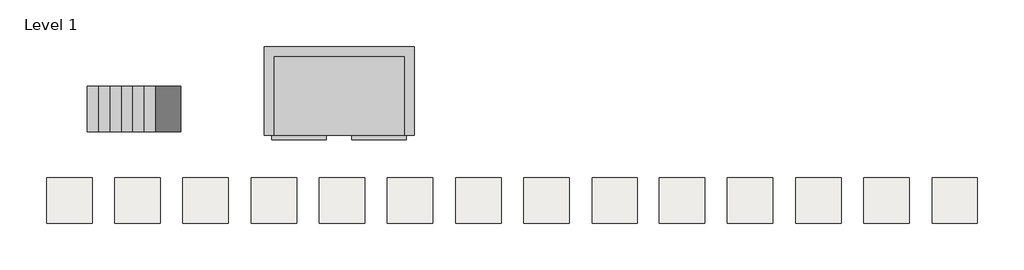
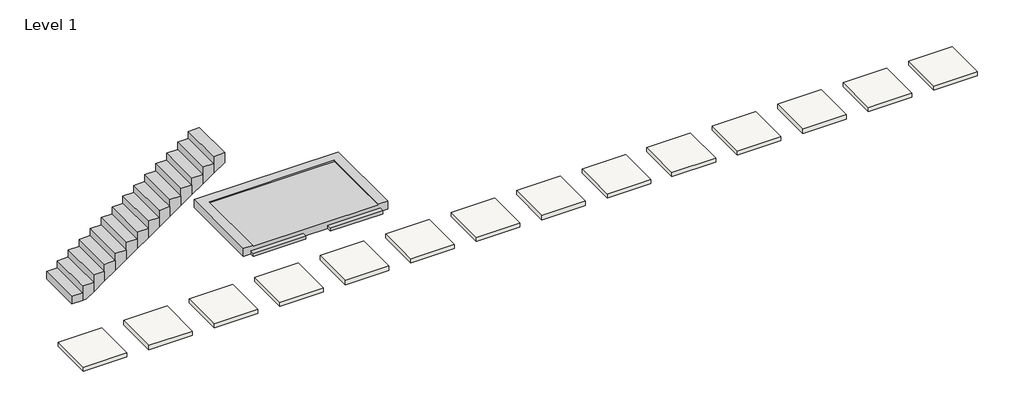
# One storey: 14 slabs, 1 proxy, 1 stair flight.
"""IFC4 building model written with IfcOpenShell, lengths in millimetres."""

from ifc_helpers import new_model, si_unit, frame, origin, place, context, project, spatial, polyline, outline, extrude, faceted_brep, transform, mapped, element, save
from components import proxy_300_24_isr_concrete_platform_double_platform_9cdc8692

model = new_model("IFC4")

# Units and contexts
model_context = context("Model", 3, world=origin())
ifc_project = project(units=[si_unit("LENGTHUNIT", "METRE", prefix="MILLI")], contexts=[model_context])

# Site, building, storey
site = spatial("IfcSite", under=ifc_project)
building = spatial("IfcBuilding", under=site)
storey = spatial("IfcBuildingStorey", under=building, Name="Level 1", Elevation=0.0)

# Proxy
placement = place(None, origin())
proxy_300_24_isr_concrete_platform_double_platform_shape = proxy_300_24_isr_concrete_platform_double_platform_9cdc8692(model_context)
element("IfcBuildingElementProxy", 1, Name="300_24_ISR_concrete_platform : double platform", ObjectType="300_24_ISR_concrete_platform : double platform", at=placement, inside=storey, context=model_context, shape_type="MappedRepresentation", body=[
    mapped(proxy_300_24_isr_concrete_platform_double_platform_shape, transform((-652.5441241, 2827.5413771, 0.0), x_axis=(1.0, 0.0, 0.0), y_axis=(0.0, 1.0, 0.0), z_axis=(0.0, 0.0, 1.0))),
])

# Slabs
element("IfcSlab", 2, ObjectType="Generic 100mm", at=placement, inside=storey, context=model_context, shape_type="SweptSolid", body=[
    extrude(outline(polyline([(-3088.5953778, 89.4387512), (-3088.5953778, -910.5612488), (-4088.5953778, -910.5612488), (-4088.5953778, 89.4387512), (-3088.5953778, 89.4387512)])), frame((0.0, 0.0, -100.0), z_axis=(0.0, 0.0, 1.0), x_axis=(1.0, 0.0, 0.0)), (0.0, 0.0, 1.0), 100.0),
])
element("IfcSlab", 3, ObjectType="Generic 100mm", at=placement, inside=storey, context=model_context, shape_type="SweptSolid", body=[
    extrude(outline(polyline([(-1588.5953778, 89.4387512), (-1588.5953778, -910.5612488), (-2588.5953778, -910.5612488), (-2588.5953778, 89.4387512), (-1588.5953778, 89.4387512)])), frame((0.0, 0.0, -100.0), z_axis=(0.0, 0.0, 1.0), x_axis=(1.0, 0.0, 0.0)), (0.0, 0.0, 1.0), 100.0),
])
element("IfcSlab", 4, ObjectType="Generic 100mm", at=placement, inside=storey, context=model_context, shape_type="SweptSolid", body=[
    extrude(outline(polyline([(-88.5953778, 89.4387512), (-88.5953778, -910.5612488), (-1088.5953778, -910.5612488), (-1088.5953778, 89.4387512), (-88.5953778, 89.4387512)])), frame((0.0, 0.0, -100.0), z_axis=(0.0, 0.0, 1.0), x_axis=(1.0, 0.0, 0.0)), (0.0, 0.0, 1.0), 100.0),
])
element("IfcSlab", 5, ObjectType="Generic 100mm", at=placement, inside=storey, context=model_context, shape_type="SweptSolid", body=[
    extrude(outline(polyline([(1411.4046222, 89.4387512), (1411.4046222, -910.5612488), (411.4046222, -910.5612488), (411.4046222, 89.4387512), (1411.4046222, 89.4387512)])), frame((0.0, 0.0, -100.0), z_axis=(0.0, 0.0, 1.0), x_axis=(1.0, 0.0, 0.0)), (0.0, 0.0, 1.0), 100.0),
])
element("IfcSlab", 6, ObjectType="Generic 100mm", at=placement, inside=storey, context=model_context, shape_type="SweptSolid", body=[
    extrude(outline(polyline([(2911.4046222, 89.4387512), (2911.4046222, -910.5612488), (1911.4046222, -910.5612488), (1911.4046222, 89.4387512), (2911.4046222, 89.4387512)])), frame((0.0, 0.0, -100.0), z_axis=(0.0, 0.0, 1.0), x_axis=(1.0, 0.0, 0.0)), (0.0, 0.0, 1.0), 100.0),
])
element("IfcSlab", 7, ObjectType="Generic 100mm", at=placement, inside=storey, context=model_context, shape_type="SweptSolid", body=[
    extrude(outline(polyline([(4411.4046222, 89.4387512), (4411.4046222, -910.5612488), (3411.4046222, -910.5612488), (3411.4046222, 89.4387512), (4411.4046222, 89.4387512)])), frame((0.0, 0.0, -100.0), z_axis=(0.0, 0.0, 1.0), x_axis=(1.0, 0.0, 0.0)), (0.0, 0.0, 1.0), 100.0),
])
element("IfcSlab", 8, ObjectType="Generic 100mm", at=placement, inside=storey, context=model_context, shape_type="SweptSolid", body=[
    extrude(outline(polyline([(5911.4046222, 89.4387512), (5911.4046222, -910.5612488), (4911.4046222, -910.5612488), (4911.4046222, 89.4387512), (5911.4046222, 89.4387512)])), frame((0.0, 0.0, -100.0), z_axis=(0.0, 0.0, 1.0), x_axis=(1.0, 0.0, 0.0)), (0.0, 0.0, 1.0), 100.0),
])
element("IfcSlab", 9, ObjectType="Generic 100mm", at=placement, inside=storey, context=model_context, shape_type="SweptSolid", body=[
    extrude(outline(polyline([(7411.4046222, 89.4387512), (7411.4046222, -910.5612488), (6411.4046222, -910.5612488), (6411.4046222, 89.4387512), (7411.4046222, 89.4387512)])), frame((0.0, 0.0, -100.0), z_axis=(0.0, 0.0, 1.0), x_axis=(1.0, 0.0, 0.0)), (0.0, 0.0, 1.0), 100.0),
])
element("IfcSlab", 10, ObjectType="Generic 100mm", at=placement, inside=storey, context=model_context, shape_type="SweptSolid", body=[
    extrude(outline(polyline([(-4588.5953778, 89.4387512), (-4588.5953778, -910.5612488), (-5588.5953778, -910.5612488), (-5588.5953778, 89.4387512), (-4588.5953778, 89.4387512)])), frame((0.0, 0.0, -100.0), z_axis=(0.0, 0.0, 1.0), x_axis=(1.0, 0.0, 0.0)), (0.0, 0.0, 1.0), 100.0),
])
element("IfcSlab", 11, ObjectType="Generic 100mm", at=placement, inside=storey, context=model_context, shape_type="SweptSolid", body=[
    extrude(outline(polyline([(8891.4046222, 89.4387512), (8891.4046222, -910.5612488), (7891.4046222, -910.5612488), (7891.4046222, 89.4387512), (8891.4046222, 89.4387512)])), frame((0.0, 0.0, -100.0), z_axis=(0.0, 0.0, 1.0), x_axis=(1.0, 0.0, 0.0)), (0.0, 0.0, 1.0), 100.0),
])
element("IfcSlab", 12, ObjectType="Generic 100mm", at=placement, inside=storey, context=model_context, shape_type="SweptSolid", body=[
    extrude(outline(polyline([(10391.4046222, 89.4387512), (10391.4046222, -910.5612488), (9391.4046222, -910.5612488), (9391.4046222, 89.4387512), (10391.4046222, 89.4387512)])), frame((0.0, 0.0, -100.0), z_axis=(0.0, 0.0, 1.0), x_axis=(1.0, 0.0, 0.0)), (0.0, 0.0, 1.0), 100.0),
])
element("IfcSlab", 13, ObjectType="Generic 100mm", at=placement, inside=storey, context=model_context, shape_type="SweptSolid", body=[
    extrude(outline(polyline([(11891.4046222, 89.4387512), (11891.4046222, -910.5612488), (10891.4046222, -910.5612488), (10891.4046222, 89.4387512), (11891.4046222, 89.4387512)])), frame((0.0, 0.0, -100.0), z_axis=(0.0, 0.0, 1.0), x_axis=(1.0, 0.0, 0.0)), (0.0, 0.0, 1.0), 100.0),
])
element("IfcSlab", 14, ObjectType="Generic 100mm", at=placement, inside=storey, context=model_context, shape_type="SweptSolid", body=[
    extrude(outline(polyline([(13391.4046222, 89.4387512), (13391.4046222, -910.5612488), (12391.4046222, -910.5612488), (12391.4046222, 89.4387512), (13391.4046222, 89.4387512)])), frame((0.0, 0.0, -100.0), z_axis=(0.0, 0.0, 1.0), x_axis=(1.0, 0.0, 0.0)), (0.0, 0.0, 1.0), 100.0),
])
element("IfcSlab", 15, ObjectType="Generic 100mm", at=placement, inside=storey, context=model_context, shape_type="SweptSolid", body=[
    extrude(outline(polyline([(14891.4046222, 89.4387512), (14891.4046222, -910.5612488), (13891.4046222, -910.5612488), (13891.4046222, 89.4387512), (14891.4046222, 89.4387512)])), frame((0.0, 0.0, -100.0), z_axis=(0.0, 0.0, 1.0), x_axis=(1.0, 0.0, 0.0)), (0.0, 0.0, 1.0), 100.0),
])

# Stair flight
element("IfcStairFlight", 16, ObjectType="190mm Depth", at=placement, inside=storey, context=model_context, shape_type="Brep", body=[
    faceted_brep([(-4438.5953778, 2107.5413771, 173.9130435), (-4688.5953778, 2107.5413771, 173.9130435), (-4688.5953778, 1107.5413771, 173.9130435), (-4438.5953778, 1107.5413771, 173.9130435), (-4438.5953778, 2107.5413771, 0.0), (-4688.5953778, 2107.5413771, 0.0), (-4688.5953778, 1107.5413771, 0.0), (-4438.5953778, 1107.5413771, 0.0), (-4188.5953778, 2107.5413771, 347.826087), (-4438.5953778, 2107.5413771, 347.826087), (-4438.5953778, 1107.5413771, 347.826087), (-4188.5953778, 1107.5413771, 347.826087), (-4188.5953778, 2107.5413771, 116.3742706), (-4355.8833918, 2107.5413771, 0.0), (-4355.8833918, 1107.5413771, 0.0), (-4188.5953778, 1107.5413771, 116.3742706), (-3938.5953778, 2107.5413771, 521.7391304), (-4188.5953778, 2107.5413771, 521.7391304), (-4188.5953778, 1107.5413771, 521.7391304), (-3938.5953778, 1107.5413771, 521.7391304), (-3938.5953778, 2107.5413771, 290.2873141), (-3938.5953778, 1107.5413771, 290.2873141), (-3688.5953778, 2107.5413771, 695.6521739), (-3938.5953778, 2107.5413771, 695.6521739), (-3938.5953778, 1107.5413771, 695.6521739), (-3688.5953778, 1107.5413771, 695.6521739), (-3688.5953778, 2107.5413771, 464.2003576), (-3688.5953778, 1107.5413771, 464.2003576), (-3438.5953778, 2107.5413771, 869.5652174), (-3688.5953778, 2107.5413771, 869.5652174), (-3688.5953778, 1107.5413771, 869.5652174), (-3438.5953778, 1107.5413771, 869.5652174), (-3438.5953778, 2107.5413771, 638.113401), (-3438.5953778, 1107.5413771, 638.113401), (-3188.5953778, 2107.5413771, 1043.4782609), (-3438.5953778, 2107.5413771, 1043.4782609), (-3438.5953778, 1107.5413771, 1043.4782609), (-3188.5953778, 1107.5413771, 1043.4782609), (-3188.5953778, 2107.5413771, 812.0264445), (-3188.5953778, 1107.5413771, 812.0264445), (-2938.5953778, 2107.5413771, 1217.3913043), (-3188.5953778, 2107.5413771, 1217.3913043), (-3188.5953778, 1107.5413771, 1217.3913043), (-2938.5953778, 1107.5413771, 1217.3913043), (-2938.5953778, 2107.5413771, 985.939488), (-2938.5953778, 1107.5413771, 985.939488), (-2688.5953778, 2107.5413771, 1391.3043478), (-2938.5953778, 2107.5413771, 1391.3043478), (-2938.5953778, 1107.5413771, 1391.3043478), (-2688.5953778, 1107.5413771, 1391.3043478), (-2688.5953778, 2107.5413771, 1159.8525315), (-2688.5953778, 1107.5413771, 1159.8525315), (-2438.5953778, 2107.5413771, 1565.2173913), (-2688.5953778, 2107.5413771, 1565.2173913), (-2688.5953778, 1107.5413771, 1565.2173913), (-2438.5953778, 1107.5413771, 1565.2173913), (-2438.5953778, 2107.5413771, 1333.765575), (-2438.5953778, 1107.5413771, 1333.765575), (-2188.5953778, 2107.5413771, 1739.1304348), (-2438.5953778, 2107.5413771, 1739.1304348), (-2438.5953778, 1107.5413771, 1739.1304348), (-2188.5953778, 1107.5413771, 1739.1304348), (-2188.5953778, 2107.5413771, 1507.6786184), (-2188.5953778, 1107.5413771, 1507.6786184), (-1938.5953778, 2107.5413771, 1913.0434783), (-2188.5953778, 2107.5413771, 1913.0434783), (-2188.5953778, 1107.5413771, 1913.0434783), (-1938.5953778, 1107.5413771, 1913.0434783), (-1938.5953778, 2107.5413771, 1681.5916619), (-1938.5953778, 1107.5413771, 1681.5916619), (-1688.5953778, 2107.5413771, 2086.9565217), (-1938.5953778, 2107.5413771, 2086.9565217), (-1938.5953778, 1107.5413771, 2086.9565217), (-1688.5953778, 1107.5413771, 2086.9565217), (-1688.5953778, 2107.5413771, 1855.5047054), (-1688.5953778, 1107.5413771, 1855.5047054), (-1438.5953778, 2107.5413771, 2260.8695652), (-1688.5953778, 2107.5413771, 2260.8695652), (-1688.5953778, 1107.5413771, 2260.8695652), (-1438.5953778, 1107.5413771, 2260.8695652), (-1438.5953778, 2107.5413771, 2029.4177489), (-1438.5953778, 1107.5413771, 2029.4177489), (-1188.5953778, 2107.5413771, 2203.3307924), (-1188.5953778, 1107.5413771, 2203.3307924), (-1188.5953778, 2107.5413771, 2434.7826087), (-1438.5953778, 2107.5413771, 2434.7826087), (-1438.5953778, 1107.5413771, 2434.7826087), (-1188.5953778, 1107.5413771, 2434.7826087)], [[[0, 1, 2, 3]], [[1, 0, 4, 5]], [[2, 1, 5, 6]], [[3, 2, 6, 7]], [[8, 9, 10, 11]], [[4, 0, 9, 8, 12, 13]], [[0, 3, 10, 9]], [[3, 7, 14, 15, 11, 10]], [[16, 17, 18, 19]], [[17, 16, 20, 12, 8]], [[8, 11, 18, 17]], [[19, 18, 11, 15, 21]], [[22, 23, 24, 25]], [[23, 22, 26, 20, 16]], [[16, 19, 24, 23]], [[25, 24, 19, 21, 27]], [[28, 29, 30, 31]], [[29, 28, 32, 26, 22]], [[22, 25, 30, 29]], [[31, 30, 25, 27, 33]], [[34, 35, 36, 37]], [[35, 34, 38, 32, 28]], [[28, 31, 36, 35]], [[37, 36, 31, 33, 39]], [[40, 41, 42, 43]], [[41, 40, 44, 38, 34]], [[34, 37, 42, 41]], [[43, 42, 37, 39, 45]], [[46, 47, 48, 49]], [[47, 46, 50, 44, 40]], [[40, 43, 48, 47]], [[49, 48, 43, 45, 51]], [[52, 53, 54, 55]], [[53, 52, 56, 50, 46]], [[46, 49, 54, 53]], [[55, 54, 49, 51, 57]], [[58, 59, 60, 61]], [[59, 58, 62, 56, 52]], [[52, 55, 60, 59]], [[61, 60, 55, 57, 63]], [[64, 65, 66, 67]], [[65, 64, 68, 62, 58]], [[58, 61, 66, 65]], [[67, 66, 61, 63, 69]], [[70, 71, 72, 73]], [[71, 70, 74, 68, 64]], [[64, 67, 72, 71]], [[73, 72, 67, 69, 75]], [[76, 77, 78, 79]], [[77, 76, 80, 74, 70]], [[70, 73, 78, 77]], [[79, 78, 73, 75, 81]], [[5, 4, 13, 14, 7, 6]], [[14, 13, 12, 20, 26, 32, 38, 44, 50, 56, 62, 68, 74, 80, 82, 83, 81, 75, 69, 63, 57, 51, 45, 39, 33, 27, 21, 15]], [[84, 85, 86, 87]], [[85, 84, 82, 80, 76]], [[76, 79, 86, 85]], [[87, 86, 79, 81, 83]], [[84, 87, 83, 82]]]),
])

save(model, "model.ifc")
